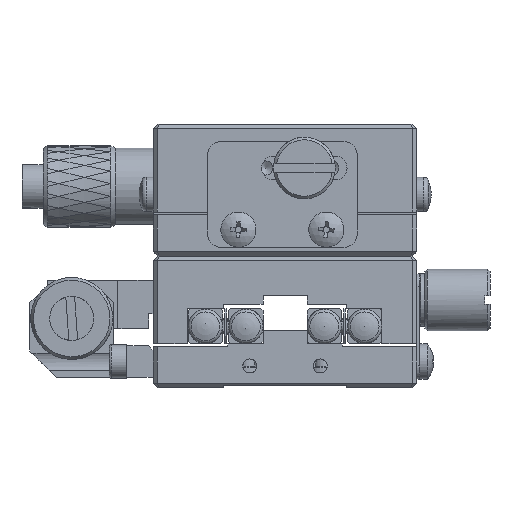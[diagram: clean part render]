
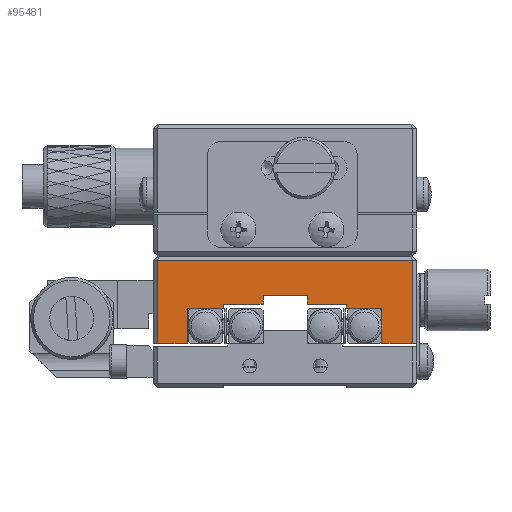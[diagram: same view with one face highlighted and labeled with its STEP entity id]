
A CAD part, left-side view. The second image highlights one B-rep face of the part: STEP entity #95481.
In plain terms, the highlighted planar face has unit normal (-1, 0, 0).
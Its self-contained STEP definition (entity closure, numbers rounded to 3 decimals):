
#102 = LINE ( 'NONE', #51574, #91039 ) ;
#3673 = VERTEX_POINT ( 'NONE', #44241 ) ;
#3884 = VECTOR ( 'NONE', #5127, 1000. ) ;
#5038 = DIRECTION ( 'NONE',  ( 0., -1., 0. ) ) ;
#5127 = DIRECTION ( 'NONE',  ( 0., -1., 0. ) ) ;
#6623 = CARTESIAN_POINT ( 'NONE',  ( -50., -46.629, 12.985 ) ) ;
#7539 = LINE ( 'NONE', #67332, #109211 ) ;
#8514 = CARTESIAN_POINT ( 'NONE',  ( -50., -25.129, 17.735 ) ) ;
#8747 = VERTEX_POINT ( 'NONE', #58541 ) ;
#8949 = DIRECTION ( 'NONE',  ( 0., 1., 0. ) ) ;
#9100 = CARTESIAN_POINT ( 'NONE',  ( -50., -37.129, 12.735 ) ) ;
#9377 = VERTEX_POINT ( 'NONE', #53810 ) ;
#9947 = EDGE_CURVE ( 'NONE', #28105, #27486, #16431, .T. ) ;
#10078 = DIRECTION ( 'NONE',  ( 0., -1., 0. ) ) ;
#12866 = VERTEX_POINT ( 'NONE', #64862 ) ;
#13864 = ORIENTED_EDGE ( 'NONE', *, *, #69922, .F. ) ;
#14065 = CARTESIAN_POINT ( 'NONE',  ( -50., -42.129, 13.735 ) ) ;
#15038 = EDGE_CURVE ( 'NONE', #19118, #3673, #94597, .T. ) ;
#15656 = LINE ( 'NONE', #76568, #60318 ) ;
#16431 = LINE ( 'NONE', #44631, #94934 ) ;
#16833 = EDGE_CURVE ( 'NONE', #44120, #24056, #37515, .T. ) ;
#18684 = CARTESIAN_POINT ( 'NONE',  ( -50., -37.129, 12.985 ) ) ;
#18991 = EDGE_LOOP ( 'NONE', ( #50190, #38539, #72297, #88146, #105578, #70013, #84324, #54753, #30709, #13864, #97984, #49028, #101905, #43029, #52503, #35905 ) ) ;
#19118 = VERTEX_POINT ( 'NONE', #9100 ) ;
#19364 = LINE ( 'NONE', #55317, #78891 ) ;
#19699 = CARTESIAN_POINT ( 'NONE',  ( -50., -32.629, 12.735 ) ) ;
#19824 = DIRECTION ( 'NONE',  ( 0., 0., 1. ) ) ;
#21735 = CARTESIAN_POINT ( 'NONE',  ( -50., -39.629, 12.735 ) ) ;
#24056 = VERTEX_POINT ( 'NONE', #19699 ) ;
#24203 = EDGE_CURVE ( 'NONE', #28105, #3673, #98333, .T. ) ;
#24865 = LINE ( 'NONE', #6623, #48102 ) ;
#27059 = CARTESIAN_POINT ( 'NONE',  ( -50., -42.129, 13.735 ) ) ;
#27486 = VERTEX_POINT ( 'NONE', #31130 ) ;
#28105 = VERTEX_POINT ( 'NONE', #27059 ) ;
#28343 = VERTEX_POINT ( 'NONE', #57962 ) ;
#29908 = VECTOR ( 'NONE', #19824, 1000. ) ;
#29956 = VERTEX_POINT ( 'NONE', #63986 ) ;
#30709 = ORIENTED_EDGE ( 'NONE', *, *, #69279, .T. ) ;
#31130 = CARTESIAN_POINT ( 'NONE',  ( -50., -42.129, 12.735 ) ) ;
#31321 = DIRECTION ( 'NONE',  ( 0., -1., 0. ) ) ;
#35905 = ORIENTED_EDGE ( 'NONE', *, *, #102542, .T. ) ;
#37289 = DIRECTION ( 'NONE',  ( 0., 0., 1. ) ) ;
#37515 = LINE ( 'NONE', #80713, #29908 ) ;
#38539 = ORIENTED_EDGE ( 'NONE', *, *, #107095, .F. ) ;
#41081 = VERTEX_POINT ( 'NONE', #91042 ) ;
#41345 = VECTOR ( 'NONE', #47846, 1000. ) ;
#41974 = EDGE_CURVE ( 'NONE', #9377, #41081, #107177, .T. ) ;
#42742 = LINE ( 'NONE', #101508, #66777 ) ;
#42771 = DIRECTION ( 'NONE',  ( 0., 0., 1. ) ) ;
#43029 = ORIENTED_EDGE ( 'NONE', *, *, #106619, .F. ) ;
#44120 = VERTEX_POINT ( 'NONE', #76036 ) ;
#44241 = CARTESIAN_POINT ( 'NONE',  ( -50., -37.129, 13.735 ) ) ;
#44631 = CARTESIAN_POINT ( 'NONE',  ( -50., -42.129, 12.985 ) ) ;
#45841 = VECTOR ( 'NONE', #46696, 1000. ) ;
#46229 = VERTEX_POINT ( 'NONE', #109217 ) ;
#46696 = DIRECTION ( 'NONE',  ( 0., 1., 0. ) ) ;
#47846 = DIRECTION ( 'NONE',  ( 0., 1., 0. ) ) ;
#48102 = VECTOR ( 'NONE', #48665, 1000. ) ;
#48665 = DIRECTION ( 'NONE',  ( 0., 0., -1. ) ) ;
#49028 = ORIENTED_EDGE ( 'NONE', *, *, #41974, .T. ) ;
#50190 = ORIENTED_EDGE ( 'NONE', *, *, #64840, .T. ) ;
#50515 = CARTESIAN_POINT ( 'NONE',  ( -50., -46.629, 12.235 ) ) ;
#51574 = CARTESIAN_POINT ( 'NONE',  ( -50., -25.129, 12.985 ) ) ;
#52503 = ORIENTED_EDGE ( 'NONE', *, *, #74128, .T. ) ;
#52907 = VECTOR ( 'NONE', #5038, 1000. ) ;
#53150 = DIRECTION ( 'NONE',  ( 0., -1., 0. ) ) ;
#53810 = CARTESIAN_POINT ( 'NONE',  ( -50., -50.629, 8.235 ) ) ;
#54680 = VERTEX_POINT ( 'NONE', #104609 ) ;
#54753 = ORIENTED_EDGE ( 'NONE', *, *, #76060, .T. ) ;
#55317 = CARTESIAN_POINT ( 'NONE',  ( -50., -39.629, 12.735 ) ) ;
#57951 = PLANE ( 'NONE',  #108766 ) ;
#57962 = CARTESIAN_POINT ( 'NONE',  ( -50., -54.129, 17.735 ) ) ;
#58461 = VECTOR ( 'NONE', #31321, 1000. ) ;
#58541 = CARTESIAN_POINT ( 'NONE',  ( -50., -25.129, 8.235 ) ) ;
#60318 = VECTOR ( 'NONE', #42771, 1000. ) ;
#60592 = VERTEX_POINT ( 'NONE', #50515 ) ;
#63986 = CARTESIAN_POINT ( 'NONE',  ( -50., -50.629, 12.235 ) ) ;
#64632 = FACE_OUTER_BOUND ( 'NONE', #18991, .T. ) ;
#64840 = EDGE_CURVE ( 'NONE', #12866, #46229, #15656, .T. ) ;
#64862 = CARTESIAN_POINT ( 'NONE',  ( -50., -28.529, 8.235 ) ) ;
#64892 = LINE ( 'NONE', #21735, #3884 ) ;
#65913 = EDGE_CURVE ( 'NONE', #24056, #19118, #64892, .T. ) ;
#66777 = VECTOR ( 'NONE', #10078, 1000. ) ;
#66879 = LINE ( 'NONE', #71098, #45841 ) ;
#67103 = CARTESIAN_POINT ( 'NONE',  ( -50., -25.129, 12.235 ) ) ;
#67332 = CARTESIAN_POINT ( 'NONE',  ( -50., -50.629, 8.235 ) ) ;
#69279 = EDGE_CURVE ( 'NONE', #54680, #60592, #24865, .T. ) ;
#69922 = EDGE_CURVE ( 'NONE', #29956, #60592, #109192, .T. ) ;
#70013 = ORIENTED_EDGE ( 'NONE', *, *, #24203, .F. ) ;
#71098 = CARTESIAN_POINT ( 'NONE',  ( -50., -25.129, 12.235 ) ) ;
#72297 = ORIENTED_EDGE ( 'NONE', *, *, #16833, .T. ) ;
#74128 = EDGE_CURVE ( 'NONE', #109358, #8747, #102, .T. ) ;
#76036 = CARTESIAN_POINT ( 'NONE',  ( -50., -32.629, 12.235 ) ) ;
#76060 = EDGE_CURVE ( 'NONE', #27486, #54680, #19364, .T. ) ;
#76568 = CARTESIAN_POINT ( 'NONE',  ( -50., -28.529, 12.235 ) ) ;
#78260 = VECTOR ( 'NONE', #8949, 1000. ) ;
#78891 = VECTOR ( 'NONE', #53150, 1000. ) ;
#80713 = CARTESIAN_POINT ( 'NONE',  ( -50., -32.629, 12.985 ) ) ;
#81588 = EDGE_CURVE ( 'NONE', #9377, #29956, #7539, .T. ) ;
#81690 = CARTESIAN_POINT ( 'NONE',  ( -50., -50.629, 8.235 ) ) ;
#82329 = DIRECTION ( 'NONE',  ( 0., -1., 0. ) ) ;
#82873 = DIRECTION ( 'NONE',  ( -1., 0., 0. ) ) ;
#84324 = ORIENTED_EDGE ( 'NONE', *, *, #9947, .T. ) ;
#88146 = ORIENTED_EDGE ( 'NONE', *, *, #65913, .T. ) ;
#90834 = CARTESIAN_POINT ( 'NONE',  ( -50., -39.629, 17.735 ) ) ;
#91039 = VECTOR ( 'NONE', #94261, 1000. ) ;
#91042 = CARTESIAN_POINT ( 'NONE',  ( -50., -54.129, 8.235 ) ) ;
#91731 = DIRECTION ( 'NONE',  ( 0., 0., 1. ) ) ;
#93328 = VECTOR ( 'NONE', #101251, 1000. ) ;
#94261 = DIRECTION ( 'NONE',  ( 0., 0., -1. ) ) ;
#94597 = LINE ( 'NONE', #18684, #93328 ) ;
#94934 = VECTOR ( 'NONE', #103911, 1000. ) ;
#95481 = ADVANCED_FACE ( 'NONE', ( #64632 ), #57951, .T. ) ;
#95502 = CARTESIAN_POINT ( 'NONE',  ( -50., -54.129, 12.985 ) ) ;
#96587 = LINE ( 'NONE', #95502, #97384 ) ;
#97384 = VECTOR ( 'NONE', #37289, 1000. ) ;
#97984 = ORIENTED_EDGE ( 'NONE', *, *, #81588, .F. ) ;
#98333 = LINE ( 'NONE', #14065, #41345 ) ;
#101251 = DIRECTION ( 'NONE',  ( 0., 0., 1. ) ) ;
#101508 = CARTESIAN_POINT ( 'NONE',  ( -50., -28.629, 8.235 ) ) ;
#101905 = ORIENTED_EDGE ( 'NONE', *, *, #106135, .T. ) ;
#102542 = EDGE_CURVE ( 'NONE', #8747, #12866, #42742, .T. ) ;
#103911 = DIRECTION ( 'NONE',  ( 0., 0., -1. ) ) ;
#104609 = CARTESIAN_POINT ( 'NONE',  ( -50., -46.629, 12.735 ) ) ;
#105578 = ORIENTED_EDGE ( 'NONE', *, *, #15038, .T. ) ;
#105835 = LINE ( 'NONE', #90834, #52907 ) ;
#106135 = EDGE_CURVE ( 'NONE', #41081, #28343, #96587, .T. ) ;
#106619 = EDGE_CURVE ( 'NONE', #109358, #28343, #105835, .T. ) ;
#107095 = EDGE_CURVE ( 'NONE', #44120, #46229, #66879, .T. ) ;
#107177 = LINE ( 'NONE', #81690, #58461 ) ;
#107275 = CARTESIAN_POINT ( 'NONE',  ( -50., -25.129, 8.235 ) ) ;
#108766 = AXIS2_PLACEMENT_3D ( 'NONE', #107275, #82873, #82329 ) ;
#109192 = LINE ( 'NONE', #67103, #78260 ) ;
#109211 = VECTOR ( 'NONE', #91731, 1000. ) ;
#109217 = CARTESIAN_POINT ( 'NONE',  ( -50., -28.529, 12.235 ) ) ;
#109358 = VERTEX_POINT ( 'NONE', #8514 ) ;
